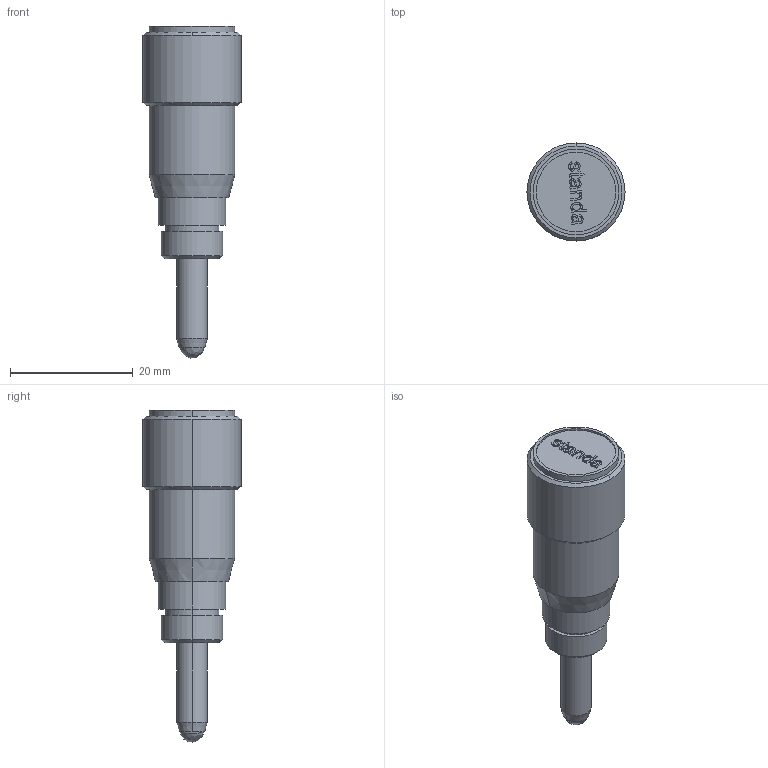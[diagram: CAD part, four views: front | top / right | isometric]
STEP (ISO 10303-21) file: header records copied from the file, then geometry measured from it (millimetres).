
FILE_DESCRIPTION (( 'STEP AP203' ), '1' );
FILE_NAME ('9S75M-10.STEP', '2008-10-23T21:38:01', ( 'Darius' ), ( '' ), 'SwSTEP 2.0', 'SolidWorks 2003240', '' );
FILE_SCHEMA (( 'CONFIG_CONTROL_DESIGN' ));
Length unit declared in the file: millimetre
Products named in the file (1): 9S75M-10
Bounding box: 16 x 16 x 54.2 mm (x, y, z)
Volume: 5846.8 mm3; surface area: 2424.8 mm2
Topology: 1 solids, 2 shells, 163 faces, 422 edges, 277 vertices
Faces by surface type: bspline 73, plane 54, cylinder 22, cone 14
Entity records: 6719 total; most frequent: CARTESIAN_POINT 3104, ORIENTED_EDGE 840, DIRECTION 522, EDGE_CURVE 420, VERTEX_POINT 277, LINE 212, VECTOR 212, EDGE_LOOP 181
